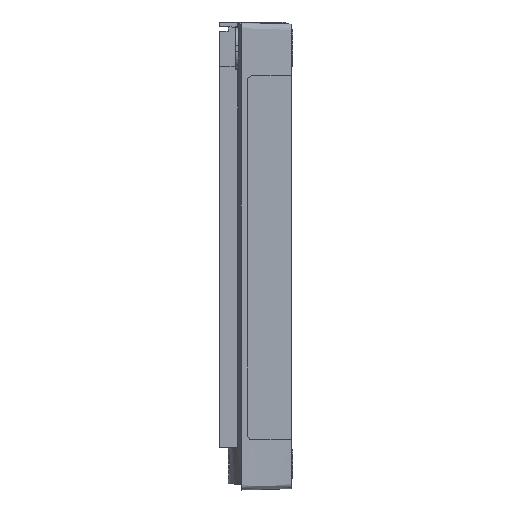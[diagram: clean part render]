
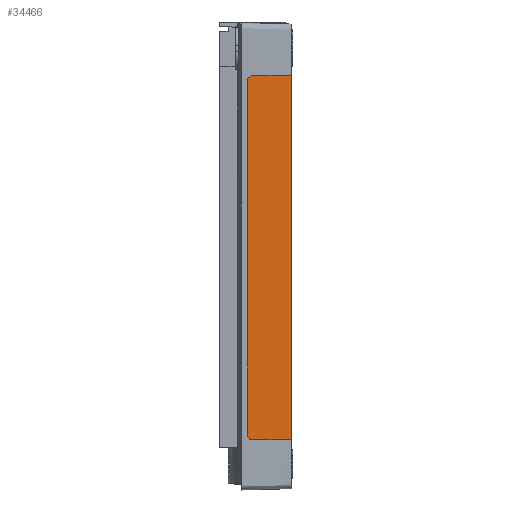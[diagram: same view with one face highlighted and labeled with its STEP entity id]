
A CAD part, left-side view. The second image highlights one B-rep face of the part: STEP entity #34466.
In plain terms, the highlighted planar face has unit normal (-1, 0, 0).
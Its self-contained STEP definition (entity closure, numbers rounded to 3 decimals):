
#1012 = FACE_OUTER_BOUND ( 'NONE', #27892, .T. ) ;
#2079 = LINE ( 'NONE', #7449, #29860 ) ;
#3688 = ORIENTED_EDGE ( 'NONE', *, *, #23608, .F. ) ;
#3796 = CARTESIAN_POINT ( 'NONE',  ( -53.3, 13.377, 61. ) ) ;
#4099 = DIRECTION ( 'NONE',  ( 0., 0., -1. ) ) ;
#4806 = AXIS2_PLACEMENT_3D ( 'NONE', #34428, #16381, #4099 ) ;
#5676 = CARTESIAN_POINT ( 'NONE',  ( -53.3, 15.377, -62. ) ) ;
#6194 = EDGE_CURVE ( 'NONE', #28969, #8367, #2079, .T. ) ;
#6542 = VECTOR ( 'NONE', #27895, 1000. ) ;
#6961 = DIRECTION ( 'NONE',  ( 1., 0., 0. ) ) ;
#7449 = CARTESIAN_POINT ( 'NONE',  ( -53.3, 0., -64. ) ) ;
#8367 = VERTEX_POINT ( 'NONE', #11508 ) ;
#9346 = LINE ( 'NONE', #12711, #12596 ) ;
#10516 = ORIENTED_EDGE ( 'NONE', *, *, #11020, .F. ) ;
#11020 = EDGE_CURVE ( 'NONE', #12046, #28969, #12337, .T. ) ;
#11508 = CARTESIAN_POINT ( 'NONE',  ( -53.3, 13.377, -64. ) ) ;
#11619 = DIRECTION ( 'NONE',  ( 1., 0., 0. ) ) ;
#12046 = VERTEX_POINT ( 'NONE', #22870 ) ;
#12337 = LINE ( 'NONE', #36332, #19139 ) ;
#12596 = VECTOR ( 'NONE', #21449, 1000. ) ;
#12711 = CARTESIAN_POINT ( 'NONE',  ( -53.3, 15.377, -62. ) ) ;
#13530 = ORIENTED_EDGE ( 'NONE', *, *, #6194, .F. ) ;
#13562 = CARTESIAN_POINT ( 'NONE',  ( -53.3, 13.377, 63. ) ) ;
#14782 = DIRECTION ( 'NONE',  ( 0., 0., -1. ) ) ;
#16381 = DIRECTION ( 'NONE',  ( 1., 0., 0. ) ) ;
#18051 = AXIS2_PLACEMENT_3D ( 'NONE', #3796, #6961, #18478 ) ;
#18478 = DIRECTION ( 'NONE',  ( 0., 0., -1. ) ) ;
#19139 = VECTOR ( 'NONE', #24442, 1000. ) ;
#19354 = CIRCLE ( 'NONE', #4806, 2. ) ;
#20308 = DIRECTION ( 'NONE',  ( 0., 1., 0. ) ) ;
#20750 = ORIENTED_EDGE ( 'NONE', *, *, #33109, .F. ) ;
#20995 = CIRCLE ( 'NONE', #33678, 2. ) ;
#21449 = DIRECTION ( 'NONE',  ( 0., 0., 1. ) ) ;
#21776 = VERTEX_POINT ( 'NONE', #31943 ) ;
#22160 = EDGE_CURVE ( 'NONE', #21776, #22500, #20995, .T. ) ;
#22500 = VERTEX_POINT ( 'NONE', #13562 ) ;
#22870 = CARTESIAN_POINT ( 'NONE',  ( -53.3, 0., 63. ) ) ;
#23608 = EDGE_CURVE ( 'NONE', #22500, #12046, #31652, .T. ) ;
#24442 = DIRECTION ( 'NONE',  ( 0., 0., -1. ) ) ;
#25139 = CARTESIAN_POINT ( 'NONE',  ( -53.3, 13.377, 63. ) ) ;
#25636 = ORIENTED_EDGE ( 'NONE', *, *, #30142, .F. ) ;
#27892 = EDGE_LOOP ( 'NONE', ( #29137, #20750, #25636, #13530, #10516, #3688 ) ) ;
#27895 = DIRECTION ( 'NONE',  ( 0., -1., 0. ) ) ;
#28969 = VERTEX_POINT ( 'NONE', #31245 ) ;
#29137 = ORIENTED_EDGE ( 'NONE', *, *, #22160, .F. ) ;
#29860 = VECTOR ( 'NONE', #20308, 1000. ) ;
#30142 = EDGE_CURVE ( 'NONE', #8367, #38996, #19354, .T. ) ;
#31245 = CARTESIAN_POINT ( 'NONE',  ( -53.3, 0., -64. ) ) ;
#31652 = LINE ( 'NONE', #25139, #6542 ) ;
#31943 = CARTESIAN_POINT ( 'NONE',  ( -53.3, 15.377, 61. ) ) ;
#32631 = CARTESIAN_POINT ( 'NONE',  ( -53.3, 13.377, 61. ) ) ;
#33109 = EDGE_CURVE ( 'NONE', #38996, #21776, #9346, .T. ) ;
#33678 = AXIS2_PLACEMENT_3D ( 'NONE', #32631, #11619, #14782 ) ;
#34428 = CARTESIAN_POINT ( 'NONE',  ( -53.3, 13.377, -62. ) ) ;
#34466 = ADVANCED_FACE ( 'NONE', ( #1012 ), #34504, .F. ) ;
#34504 = PLANE ( 'NONE',  #18051 ) ;
#36332 = CARTESIAN_POINT ( 'NONE',  ( -53.3, 0., 63. ) ) ;
#38996 = VERTEX_POINT ( 'NONE', #5676 ) ;
